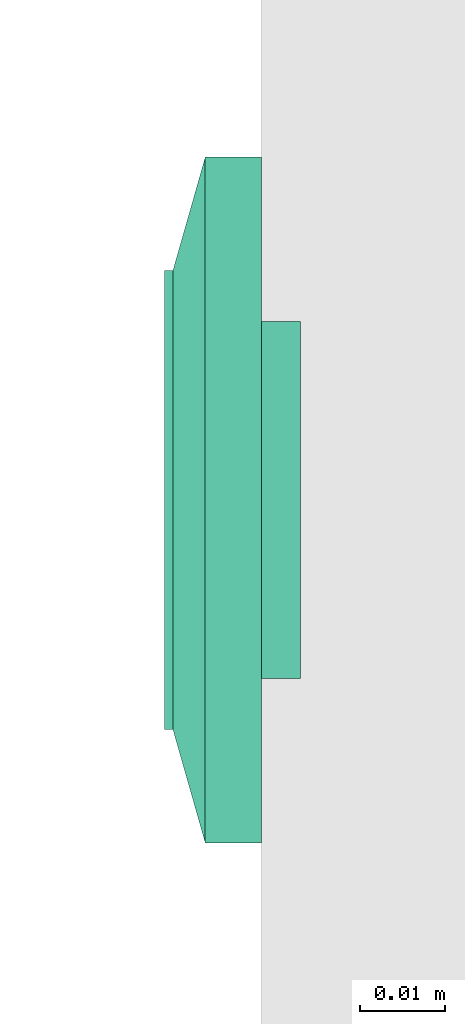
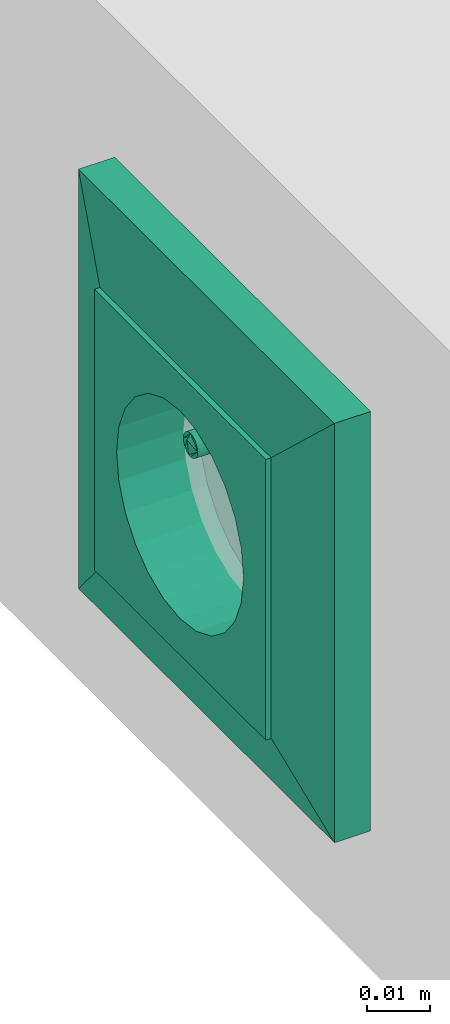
# One storey, part 112 of 153: 1 flow terminal.
"""IFC2X3 building model written with IfcOpenShell, lengths in metres."""

import ifcopenshell
import ifcopenshell.guid

model = None  # the IFC model being written
_history = None  # IfcOwnerHistory: only IFC2X3 demands one
_inside = {}  # id of a spatial element -> (the spatial element, [elements in it])
_under = {}  # id of a project, library or spatial element -> (it, [spatial elements below it])
_declared = {}  # id of a project -> (the project, [libraries it declares])
_typed = {}  # id of a type object -> (the type object, [elements of that type])
_made_of = {}  # id of a material, layer set ... -> (it, [elements and type objects made of it])


def new_model(schema):
    """Start an empty IFC model of exactly this schema.

    Asked for "IFC4X3", IfcOpenShell would pick the latest addendum, in which some entities
    have other attributes; the version numbers below select the first issue.
    IFC2X3 requires an IfcOwnerHistory on every rooted entity: one is made here for all.
    """
    global model, _history
    if schema == "IFC4X3":
        model = ifcopenshell.file(schema_version=(4, 3, 0, 0))
    else:
        model = ifcopenshell.file(schema=schema)
    _inside.clear()
    _under.clear()
    _declared.clear()
    _typed.clear()
    _made_of.clear()
    _history = None
    if model.schema == "IFC2X3":
        org = make("IfcOrganization", Name="unknown")
        user = make(
            "IfcPersonAndOrganization",
            ThePerson=make("IfcPerson", FamilyName="unknown"),
            TheOrganization=org,
        )
        app = make(
            "IfcApplication",
            ApplicationDeveloper=org,
            Version="unknown",
            ApplicationFullName="unknown",
            ApplicationIdentifier="unknown",
        )
        _history = make(
            "IfcOwnerHistory",
            OwningUser=user,
            OwningApplication=app,
            ChangeAction="ADDED",
            CreationDate=0,
        )
    return model


def make(cls, **values):
    """One entity of the class cls with the attributes given. An attribute that is None is left unset."""
    return model.create_entity(
        cls, **{name: value for name, value in values.items() if value is not None}
    )


def entity(cls, *values):
    """Any entity or typed value of the class cls, its attributes in the order of the schema. None: left unset."""
    e = model.create_entity(cls)
    for i, value in enumerate(values):
        if value is not None:
            e[i] = value
    return e


def rooted(cls, **values):
    """An entity with a GlobalId (a new one), such as an element, a storey or a relation."""
    return make(cls, GlobalId=ifcopenshell.guid.new(), OwnerHistory=_history, **values)


def si_unit(unit_type, name, prefix=None):
    """IfcSIUnit, for example si_unit("LENGTHUNIT", "METRE", prefix="MILLI")."""
    return make("IfcSIUnit", UnitType=unit_type, Prefix=prefix, Name=name)


def converted_unit(unit_type, name, factor, base, dimensions=None, offset=None):
    """IfcConversionBasedUnit, such as the inch: factor (a typed value) times the base unit."""
    return make(
        "IfcConversionBasedUnit"
        if offset is None
        else "IfcConversionBasedUnitWithOffset",
        ConversionOffset=offset,
        Dimensions=None
        if dimensions is None
        else entity("IfcDimensionalExponents", *dimensions),
        UnitType=unit_type,
        Name=name,
        ConversionFactor=make(
            "IfcMeasureWithUnit", ValueComponent=factor, UnitComponent=base
        ),
    )


def derived_unit(unit_type, elements):
    """IfcDerivedUnit: a product of units, each with its exponent."""
    return make(
        "IfcDerivedUnit",
        Elements=[
            make("IfcDerivedUnitElement", Unit=unit, Exponent=power)
            for unit, power in elements
        ],
        UnitType=unit_type,
    )


def assignment(units):
    """IfcUnitAssignment: the units of a project."""
    return None if units is None else make("IfcUnitAssignment", Units=units)


def point(xyz):
    """IfcCartesianPoint."""
    return None if xyz is None else make("IfcCartesianPoint", Coordinates=xyz)


def direction(xyz):
    """IfcDirection."""
    return None if xyz is None else make("IfcDirection", DirectionRatios=xyz)


def frame(location, z_axis=None, x_axis=None):
    """IfcAxis2Placement3D, a coordinate frame: its origin and axes. An axis left out is left unset."""
    return make(
        "IfcAxis2Placement3D",
        Location=point(location),
        Axis=direction(z_axis),
        RefDirection=direction(x_axis),
    )


def origin():
    """The frame at (0, 0, 0) with its axes left unset."""
    return frame((0.0, 0.0, 0.0))


def place(relative_to, where):
    """IfcLocalPlacement: puts the frame where relative to a parent placement (None: the world)."""
    return make(
        "IfcLocalPlacement", PlacementRelTo=relative_to, RelativePlacement=where
    )


def context(
    kind, dimensions, precision=None, world=None, true_north=None, identifier=None
):
    """IfcGeometricRepresentationContext, for example the 3D "Model" context."""
    return make(
        "IfcGeometricRepresentationContext",
        ContextIdentifier=identifier,
        ContextType=kind,
        CoordinateSpaceDimension=dimensions,
        Precision=precision,
        WorldCoordinateSystem=world,
        TrueNorth=true_north,
    )


def subcontext(parent, identifier, kind, view, scale=None):
    """IfcGeometricRepresentationSubContext, for example "Body" below "Model"."""
    return make(
        "IfcGeometricRepresentationSubContext",
        ContextIdentifier=identifier,
        ContextType=kind,
        ParentContext=parent,
        TargetScale=scale,
        TargetView=view,
    )


def project(units=None, contexts=None):
    """IfcProject with its units and contexts."""
    return rooted(
        "IfcProject",
        Name="project",
        RepresentationContexts=contexts,
        UnitsInContext=assignment(units),
    )


def spatial(cls, under=None, at=None, **own):
    """A site, building, storey or space (cls), placed at a placement, below another one or the project."""
    s = rooted(cls, ObjectPlacement=at, **own)
    if under is not None:
        _under.setdefault(under.id(), (under, []))[1].append(s)
    return s


def faces_of(points, faces, orient=None, outer=None):
    """IfcFace entities. A face is a list of loops; a loop is a list of indices into points, from 0.

    orient and outer hold one flag for each loop. By default every Orientation is true, the
    first loop of a face is its IfcFaceOuterBound and the others are IfcFaceBound.
    """
    made = []
    for i, loops in enumerate(faces):
        bounds = []
        for j, loop in enumerate(loops):
            is_outer = j == 0 if outer is None else outer[i][j]
            bounds.append(
                make(
                    "IfcFaceOuterBound" if is_outer else "IfcFaceBound",
                    Bound=make("IfcPolyLoop", Polygon=[points[k] for k in loop]),
                    Orientation=True if orient is None else orient[i][j],
                )
            )
        made.append(make("IfcFace", Bounds=bounds))
    return made


def face_set(faces, orient=None, outer=None):
    """The faces of one IfcConnectedFaceSet. surface_model builds it on its shared points."""
    return ("IfcConnectedFaceSet", faces, orient, outer)


def surface_model(cls, points, shells):
    """IfcFaceBasedSurfaceModel or IfcShellBasedSurfaceModel (cls): surfaces that need not close."""
    shared = [point(p) for p in points]
    made = [make(c, CfsFaces=faces_of(shared, fs, o, b)) for c, fs, o, b in shells]
    if cls == "IfcFaceBasedSurfaceModel":
        return make(cls, FbsmFaces=made)
    return make(cls, SbsmBoundary=made)


def shape(context_of_items, identifier, shape_type, items):
    """IfcShapeRepresentation: the items that make up one representation, for example the "Body"."""
    return make(
        "IfcShapeRepresentation",
        ContextOfItems=context_of_items,
        RepresentationIdentifier=identifier,
        RepresentationType=shape_type,
        Items=items,
    )


def source(mapping_origin, context_of_items, identifier, shape_type, items):
    """IfcRepresentationMap: a shape defined once, which mapped items show again and again."""
    return make(
        "IfcRepresentationMap",
        MappingOrigin=mapping_origin,
        MappedRepresentation=shape(context_of_items, identifier, shape_type, items),
    )


def transform(
    local_origin,
    x_axis=None,
    y_axis=None,
    z_axis=None,
    scale=None,
    scale2=None,
    scale3=None,
    uniform=True,
):
    """IfcCartesianTransformationOperator3D, or its non-uniform kind. x_axis, y_axis, z_axis: its Axis1, 2, 3."""
    if uniform:
        return make(
            "IfcCartesianTransformationOperator3D",
            Axis1=direction(x_axis),
            Axis2=direction(y_axis),
            LocalOrigin=point(local_origin),
            Scale=scale,
            Axis3=direction(z_axis),
        )
    return make(
        "IfcCartesianTransformationOperator3DnonUniform",
        Axis1=direction(x_axis),
        Axis2=direction(y_axis),
        LocalOrigin=point(local_origin),
        Scale=scale,
        Axis3=direction(z_axis),
        Scale2=scale2,
        Scale3=scale3,
    )


def mapped(mapping_source, mapping_target):
    """IfcMappedItem: shows the shape of a source again, moved by a transform."""
    return make(
        "IfcMappedItem", MappingSource=mapping_source, MappingTarget=mapping_target
    )


def made_of(thing, what):
    """Note that an element or type object is made of a material, layer set ...; save() writes the relation."""
    if what is not None:
        _made_of.setdefault(what.id(), (what, []))[1].append(thing)
    return thing


def type_object(cls, material=None, **own):
    """A type object (cls), such as IfcWallType, which elements share."""
    return made_of(rooted(cls, **own), material)


def type_shapes(of_type, sources):
    """Give a type object the sources (RepresentationMaps) that its elements show as mapped items."""
    of_type.RepresentationMaps = sources


def element(
    cls,
    number,
    at=None,
    inside=None,
    cuts=None,
    type_object=None,
    material=None,
    context=None,
    identifier="Body",
    shape_type=None,
    held_by="IfcProductDefinitionShape",
    body=None,
    shapes=None,
    **own,
):
    """One element of the class cls, such as IfcWall. Its Tag is "e" and its number.

    at: its placement. inside: the storey or other place that contains it. cuts: it is an
    opening in that element (IfcRelVoidsElement). A single representation is given by context,
    identifier, shape_type and body (its items); several are given by shapes. held_by: the class
    of the entity that holds the representations. save() writes the other relations.
    """
    e = rooted(cls, Tag="e%d" % number, ObjectPlacement=at, **own)
    if body is not None:
        shapes = [shape(context, identifier, shape_type, body)]
    if shapes is not None:
        e.Representation = make(held_by, Representations=shapes)
    if inside is not None:
        _inside.setdefault(inside.id(), (inside, []))[1].append(e)
    if cuts is not None:
        rooted(
            "IfcRelVoidsElement", RelatingBuildingElement=cuts, RelatedOpeningElement=e
        )
    if type_object is not None:
        _typed.setdefault(type_object.id(), (type_object, []))[1].append(e)
    return made_of(e, material)


def aggregate(whole, parts):
    """IfcRelAggregates: a whole, such as a stair, and the parts it consists of."""
    return rooted("IfcRelAggregates", RelatingObject=whole, RelatedObjects=parts)


def save(model, path):
    """Write the relations noted so far, then the file.

    IfcRelAggregates (storeys below a building ...), IfcRelContainedInSpatialStructure (elements
    in a storey), IfcRelDefinesByType, IfcRelAssociatesMaterial and IfcRelDeclares: one each for
    every whole, place, type object, material and project.
    """
    for whole, parts in _under.values():
        aggregate(whole, parts)
    for where, things in _inside.values():
        rooted(
            "IfcRelContainedInSpatialStructure",
            RelatedElements=things,
            RelatingStructure=where,
        )
    for kind, things in _typed.values():
        rooted("IfcRelDefinesByType", RelatedObjects=things, RelatingType=kind)
    for what, things in _made_of.values():
        rooted("IfcRelAssociatesMaterial", RelatedObjects=things, RelatingMaterial=what)
    for by, libraries in _declared.values():
        rooted("IfcRelDeclares", RelatingContext=by, RelatedDefinitions=libraries)
    model.write(path)


model = new_model("IFC2X3")

# Units and contexts
model_context = context("Model", 3, precision=1e-05, world=origin(), true_north=direction((6.12303176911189e-17, 1.0)))
body_context = subcontext(model_context, "Body", "Model", "MODEL_VIEW")
ifc_project = project(units=[si_unit("LENGTHUNIT", "METRE"), si_unit("AREAUNIT", "SQUARE_METRE"), si_unit("VOLUMEUNIT", "CUBIC_METRE"), converted_unit("PLANEANGLEUNIT", "DEGREE", entity("IfcRatioMeasure", 0.0174532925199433), si_unit("PLANEANGLEUNIT", "RADIAN"), dimensions=[0, 0, 0, 0, 0, 0, 0]), si_unit("MASSUNIT", "GRAM", prefix="KILO"), derived_unit("MASSDENSITYUNIT", [(si_unit("MASSUNIT", "GRAM", prefix="KILO"), 1), (si_unit("LENGTHUNIT", "METRE"), -3)]), si_unit("TIMEUNIT", "SECOND"), si_unit("FREQUENCYUNIT", "HERTZ"), si_unit("THERMODYNAMICTEMPERATUREUNIT", "DEGREE_CELSIUS"), derived_unit("THERMALTRANSMITTANCEUNIT", [(si_unit("MASSUNIT", "GRAM", prefix="KILO"), 1), (si_unit("THERMODYNAMICTEMPERATUREUNIT", "KELVIN"), -1), (si_unit("TIMEUNIT", "SECOND"), -3)]), derived_unit("VOLUMETRICFLOWRATEUNIT", [(si_unit("LENGTHUNIT", "METRE"), 3), (si_unit("TIMEUNIT", "SECOND"), -1)]), si_unit("ELECTRICCURRENTUNIT", "AMPERE"), si_unit("ELECTRICVOLTAGEUNIT", "VOLT"), si_unit("POWERUNIT", "WATT"), si_unit("FORCEUNIT", "NEWTON"), si_unit("ILLUMINANCEUNIT", "LUX"), si_unit("LUMINOUSFLUXUNIT", "LUMEN"), si_unit("LUMINOUSINTENSITYUNIT", "CANDELA"), derived_unit("USERDEFINED", [(si_unit("MASSUNIT", "GRAM", prefix="KILO"), -1), (si_unit("LENGTHUNIT", "METRE"), -2), (si_unit("TIMEUNIT", "SECOND"), 3), (si_unit("LUMINOUSFLUXUNIT", "LUMEN"), 1)]), derived_unit("LINEARVELOCITYUNIT", [(si_unit("LENGTHUNIT", "METRE"), 1), (si_unit("TIMEUNIT", "SECOND"), -1)]), si_unit("PRESSUREUNIT", "PASCAL"), derived_unit("USERDEFINED", [(si_unit("LENGTHUNIT", "METRE"), -2), (si_unit("MASSUNIT", "GRAM", prefix="KILO"), 1), (si_unit("TIMEUNIT", "SECOND"), -2)])], contexts=[model_context])

# Site, building, storey
site_placement = place(None, origin())
site = spatial("IfcSite", under=ifc_project, at=site_placement, Name="Default", CompositionType="ELEMENT")
building_placement = place(site_placement, origin())
building = spatial("IfcBuilding", under=site, at=building_placement, CompositionType="ELEMENT")
storey_placement = place(building_placement, frame((0.0, 0.0, -4.62)))
storey = spatial("IfcBuildingStorey", under=building, at=storey_placement, Name="S02", CompositionType="ELEMENT", Elevation=-4.62)

# Flow terminal
light_fixture_type = type_object("IfcLightFixtureType", Name="IP20 ONDULEE", PredefinedType="NOTDEFINED")
shared_shape = source(origin(), body_context, "Body", "SurfaceModel", [
    surface_model("IfcFaceBasedSurfaceModel", [(-0.00225000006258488, 0.0127499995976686, 0.00949633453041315), (0.0, 0.0104999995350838, 0.00949633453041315), (0.0, 0.0115376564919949, 0.0101656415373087), (0.0, 0.0139623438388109, 0.0101656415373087), (0.0, 0.0144589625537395, 0.00984531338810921), (0.0, 0.0121178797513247, 0.0102778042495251), (0.0, 0.0133821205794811, 0.0102778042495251), (0.0, 0.0127499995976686, 0.010399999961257), (0.0, 0.0149999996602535, 0.00949633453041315), (0.00225000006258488, 0.0127499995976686, 0.00949633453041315), (0.0, 0.0110410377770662, 0.00984531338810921), (0.0, 0.0127499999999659, 0.00949633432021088), (0.00225000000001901, 0.0127499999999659, 0.00949633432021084), (0.00217333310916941, 0.0121676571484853, 0.00949633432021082), (0.00194855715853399, 0.0116249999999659, 0.00949633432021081), (0.00159099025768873, 0.0111590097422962, 0.00949633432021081), (0.001125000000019, 0.010801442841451, 0.00949633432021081), (0.00058234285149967, 0.0105766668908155, 0.00949633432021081), (0.0, 0.0104999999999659, 0.00949633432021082), (-0.000582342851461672, 0.0105766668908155, 0.00949633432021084), (-0.001124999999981, 0.010801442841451, 0.00949633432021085), (-0.00159099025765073, 0.0111590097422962, 0.00949633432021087), (-0.00194855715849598, 0.011624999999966, 0.00949633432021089), (-0.0021733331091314, 0.0121676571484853, 0.00949633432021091), (-0.00224999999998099, 0.012749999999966, 0.00949633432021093), (-0.00217333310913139, 0.0133323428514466, 0.00949633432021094), (-0.00194855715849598, 0.013874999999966, 0.00949633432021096), (-0.00159099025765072, 0.0143409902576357, 0.00949633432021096), (-0.00112499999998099, 0.0146985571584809, 0.00949633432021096), (-0.00058234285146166, 0.0149233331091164, 0.00949633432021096), (0.0, 0.0149999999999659, 0.00949633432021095), (0.000582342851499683, 0.0149233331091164, 0.00949633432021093), (0.00112500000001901, 0.0146985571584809, 0.00949633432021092), (0.00159099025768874, 0.0143409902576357, 0.00949633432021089), (0.001948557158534, 0.0138749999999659, 0.00949633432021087), (0.00217333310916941, 0.0133323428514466, 0.00949633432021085), (0.00225000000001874, 0.0127499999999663, -0.00360000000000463), (0.00217333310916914, 0.0121676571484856, -0.00360000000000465), (0.00194855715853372, 0.0116249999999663, -0.00360000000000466), (0.00159099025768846, 0.0111590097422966, -0.00360000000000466), (0.00112500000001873, 0.0108014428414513, -0.00360000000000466), (0.000582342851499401, 0.0105766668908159, -0.00360000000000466), (0.0, 0.0104999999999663, -0.00360000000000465), (-0.000582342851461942, 0.0105766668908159, -0.00360000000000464), (-0.00112499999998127, 0.0108014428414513, -0.00360000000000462), (-0.001590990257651, 0.0111590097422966, -0.0036000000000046), (-0.00194855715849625, 0.0116249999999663, -0.00360000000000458), (-0.00217333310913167, 0.0121676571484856, -0.00360000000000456), (-0.00224999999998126, 0.0127499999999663, -0.00360000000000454), (-0.00217333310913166, 0.013332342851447, -0.00360000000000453), (-0.00194855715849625, 0.0138749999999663, -0.00360000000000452), (-0.00159099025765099, 0.014340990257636, -0.00360000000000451), (-0.00112499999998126, 0.0146985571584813, -0.00360000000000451), (-0.000582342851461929, 0.0149233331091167, -0.00360000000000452), (0.0, 0.0149999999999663, -0.00360000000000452), (0.000582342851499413, 0.0149233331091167, -0.00360000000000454), (0.00112500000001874, 0.0146985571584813, -0.00360000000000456), (0.00159099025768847, 0.014340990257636, -0.00360000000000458), (0.00194855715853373, 0.0138749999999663, -0.0036000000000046), (0.00217333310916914, 0.013332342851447, -0.00360000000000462), (0.0270000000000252, 0.026999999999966, 0.0113999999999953), (-0.0269999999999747, 0.026999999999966, 0.0113999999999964), (-0.0269999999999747, -0.0270000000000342, 0.0113999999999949), (0.0270000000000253, -0.0270000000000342, 0.0113999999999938), (-0.0199999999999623, 0.0, 0.0113999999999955), (-0.0193185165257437, -0.00517638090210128, 0.0113999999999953), (-0.0173205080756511, -0.0100000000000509, 0.0113999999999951), (-0.0141421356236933, -0.0141421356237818, 0.011399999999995), (-0.00999999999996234, -0.0173205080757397, 0.0113999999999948), (-0.00517638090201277, -0.0193185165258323, 0.0113999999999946), (0.0, -0.0200000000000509, 0.0113999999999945), (0.00517638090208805, -0.0193185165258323, 0.0113999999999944), (0.0100000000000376, -0.0173205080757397, 0.0113999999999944), (0.0141421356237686, -0.0141421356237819, 0.0113999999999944), (0.0173205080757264, -0.010000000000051, 0.0113999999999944), (0.0193185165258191, -0.00517638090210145, 0.0113999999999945), (0.0200000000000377, 0.0, 0.0113999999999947), (0.0193185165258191, 0.00517638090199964, 0.0113999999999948), (0.0173205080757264, 0.0099999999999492, 0.011399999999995), (0.0141421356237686, 0.0141421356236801, 0.0113999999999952), (0.0100000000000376, 0.0173205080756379, 0.0113999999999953), (0.00517638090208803, 0.0193185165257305, 0.0113999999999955), (0.0, 0.0199999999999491, 0.0113999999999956), (-0.00517638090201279, 0.0193185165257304, 0.0113999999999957), (-0.00999999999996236, 0.0173205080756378, 0.0113999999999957), (-0.0141421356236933, 0.01414213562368, 0.0113999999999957), (-0.0173205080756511, 0.00999999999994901, 0.0113999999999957), (-0.0193185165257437, 0.00517638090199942, 0.0113999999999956), (0.0270000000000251, 0.0269999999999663, 0.00199999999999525), (0.0270000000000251, -0.0270000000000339, 0.00199999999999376), (-0.0269999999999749, -0.0270000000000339, 0.00199999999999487), (-0.0269999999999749, 0.0269999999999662, 0.00199999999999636), (0.0210000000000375, 0.0, 0.00199999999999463), (0.0202844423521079, -0.00543519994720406, 0.00199999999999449), (0.0181865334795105, -0.0105000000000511, 0.0019999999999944), (0.0148492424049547, -0.0148492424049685, 0.00199999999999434), (0.0105000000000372, -0.0181865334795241, 0.00199999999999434), (0.0054351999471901, -0.0202844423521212, 0.00199999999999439), (0.0, -0.0210000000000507, 0.00199999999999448), (-0.00543519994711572, -0.020284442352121, 0.00199999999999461), (-0.0104999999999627, -0.0181865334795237, 0.00199999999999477), (-0.0148492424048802, -0.014849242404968, 0.00199999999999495), (-0.0181865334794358, -0.0105000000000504, 0.00199999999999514), (-0.020284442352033, -0.00543519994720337, 0.00199999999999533), (-0.0209999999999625, 0.0, 0.00199999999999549), (-0.0202844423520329, 0.0054351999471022, 0.00199999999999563), (-0.0181865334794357, 0.0104999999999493, 0.00199999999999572), (-0.01484924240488, 0.0148492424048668, 0.00199999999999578), (-0.0104999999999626, 0.0181865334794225, 0.00199999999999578), (-0.00543519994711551, 0.0202844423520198, 0.00199999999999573), (0.0, 0.0209999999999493, 0.00199999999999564), (0.00543519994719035, 0.0202844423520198, 0.00199999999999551), (0.0105000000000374, 0.0181865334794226, 0.00199999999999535), (0.0148492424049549, 0.0148492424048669, 0.00199999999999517), (0.0181865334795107, 0.0104999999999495, 0.00199999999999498), (0.0202844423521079, 0.00543519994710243, 0.00199999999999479), (0.0200000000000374, 0.0, -0.00360000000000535), (0.0193185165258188, -0.00517638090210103, -0.00360000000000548), (0.0173205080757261, -0.0100000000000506, -0.00360000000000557), (0.0141421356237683, -0.0141421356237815, -0.00360000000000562), (0.0100000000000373, -0.0173205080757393, -0.00360000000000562), (0.00517638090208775, -0.0193185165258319, -0.00360000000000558), (0.0, -0.0200000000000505, -0.00360000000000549), (-0.00517638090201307, -0.0193185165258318, -0.00360000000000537), (-0.00999999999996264, -0.0173205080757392, -0.00360000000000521), (-0.0141421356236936, -0.0141421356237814, -0.00360000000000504), (-0.0173205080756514, -0.0100000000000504, -0.00360000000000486), (-0.019318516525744, -0.00517638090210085, -0.00360000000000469), (-0.0199999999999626, 0.0, -0.00360000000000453), (-0.0193185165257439, 0.00517638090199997, -0.0036000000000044), (-0.0173205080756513, 0.00999999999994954, -0.00360000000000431), (-0.0141421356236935, 0.0141421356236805, -0.00360000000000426), (-0.00999999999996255, 0.0173205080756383, -0.00360000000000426), (-0.00517638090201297, 0.0193185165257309, -0.0036000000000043), (0.0, 0.0199999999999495, -0.00360000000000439), (0.00517638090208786, 0.0193185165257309, -0.00360000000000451), (0.0100000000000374, 0.0173205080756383, -0.00360000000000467), (0.0141421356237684, 0.0141421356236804, -0.00360000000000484), (0.0173205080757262, 0.0099999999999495, -0.00360000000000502), (0.0193185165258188, 0.00517638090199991, -0.00360000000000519), (-0.0123499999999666, 0.0, -0.00360000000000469), (-0.0122562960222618, -0.000711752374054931, -0.00360000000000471), (-0.0119815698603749, -0.00137500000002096, -0.00360000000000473), (-0.0115445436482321, -0.00194454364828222, -0.00360000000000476), (-0.0109749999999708, -0.00238156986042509, -0.00360000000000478), (-0.0103117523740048, -0.00265629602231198, -0.0036000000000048), (-0.00959999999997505, -0.00275000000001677, -0.00360000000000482), (-0.0088882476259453, -0.00265629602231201, -0.00360000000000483), (-0.00822499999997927, -0.00238156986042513, -0.00360000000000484), (-0.00765545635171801, -0.00194454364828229, -0.00360000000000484), (-0.00721843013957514, -0.00137500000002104, -0.00360000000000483), (-0.00694370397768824, -0.000711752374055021, -0.00360000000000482), (-0.00684999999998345, 0.0, -0.0036000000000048), (-0.00694370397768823, 0.000711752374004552, -0.00360000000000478), (-0.00721843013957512, 0.00137499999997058, -0.00360000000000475), (-0.00765545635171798, 0.00194454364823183, -0.00360000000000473), (-0.00822499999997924, 0.00238156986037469, -0.0036000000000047), (-0.00888824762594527, 0.00265629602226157, -0.00360000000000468), (-0.00959999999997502, 0.00274999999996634, -0.00360000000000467), (-0.0103117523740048, 0.00265629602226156, -0.00360000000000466), (-0.0109749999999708, 0.00238156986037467, -0.00360000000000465), (-0.011544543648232, 0.00194454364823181, -0.00360000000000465), (-0.0119815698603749, 0.00137499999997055, -0.00360000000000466), (-0.0122562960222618, 0.000711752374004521, -0.00360000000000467), (0.00685000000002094, 0.0, -0.00360000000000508), (0.0069437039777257, -0.00071175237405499, -0.0036000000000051), (0.00721843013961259, -0.00137500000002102, -0.00360000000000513), (0.00765545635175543, -0.00194454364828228, -0.00360000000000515), (0.00822500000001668, -0.00238156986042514, -0.00360000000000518), (0.00888824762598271, -0.00265629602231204, -0.0036000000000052), (0.00960000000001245, -0.00275000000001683, -0.00360000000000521), (0.0103117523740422, -0.00265629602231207, -0.00360000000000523), (0.0109750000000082, -0.00238156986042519, -0.00360000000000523), (0.0115445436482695, -0.00194454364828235, -0.00360000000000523), (0.0119815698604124, -0.0013750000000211, -0.00360000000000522), (0.0122562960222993, -0.00071175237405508, -0.00360000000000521), (0.012350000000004, 0.0, -0.00360000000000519), (0.0122562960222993, 0.000711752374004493, -0.00360000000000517), (0.0119815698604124, 0.00137499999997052, -0.00360000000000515), (0.0115445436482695, 0.00194454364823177, -0.00360000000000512), (0.0109750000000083, 0.00238156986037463, -0.0036000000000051), (0.0103117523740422, 0.00265629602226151, -0.00360000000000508), (0.00960000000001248, 0.00274999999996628, -0.00360000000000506), (0.00888824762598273, 0.0026562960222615, -0.00360000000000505), (0.0082250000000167, 0.00238156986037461, -0.00360000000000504), (0.00765545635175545, 0.00194454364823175, -0.00360000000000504), (0.0072184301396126, 0.00137499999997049, -0.00360000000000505), (0.00694370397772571, 0.000711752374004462, -0.00360000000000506), (0.0210000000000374, 0.0, -0.00460000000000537), (0.0202844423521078, -0.00543519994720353, -0.00460000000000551), (0.0181865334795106, -0.0105000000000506, -0.0046000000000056), (0.0148492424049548, -0.0148492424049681, -0.00460000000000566), (0.0105000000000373, -0.0181865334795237, -0.00460000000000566), (0.00543519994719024, -0.0202844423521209, -0.00460000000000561), (0.0, -0.0210000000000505, -0.00460000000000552), (-0.00543519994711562, -0.0202844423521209, -0.00460000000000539), (-0.0104999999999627, -0.0181865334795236, -0.00460000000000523), (-0.0148492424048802, -0.0148492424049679, -0.00460000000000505), (-0.0181865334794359, -0.0105000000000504, -0.00460000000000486), (-0.0202844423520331, -0.00543519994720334, -0.00460000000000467), (-0.0209999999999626, 0.0, -0.00460000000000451), (-0.020284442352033, 0.00543519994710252, -0.00460000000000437), (-0.0181865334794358, 0.0104999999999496, -0.00460000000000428), (-0.0148492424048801, 0.0148492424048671, -0.00460000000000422), (-0.0104999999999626, 0.0181865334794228, -0.00460000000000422), (-0.00543519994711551, 0.02028444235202, -0.00460000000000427), (0.0, 0.0209999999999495, -0.00460000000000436), (0.00543519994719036, 0.02028444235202, -0.00460000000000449), (0.0105000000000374, 0.0181865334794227, -0.00460000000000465), (0.0148492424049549, 0.014849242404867, -0.00460000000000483), (0.0181865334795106, 0.0104999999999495, -0.00460000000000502), (0.0202844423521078, 0.00543519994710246, -0.00460000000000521), (-0.00684999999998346, 0.0, -0.0046000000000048), (-0.00694370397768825, 0.000711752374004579, -0.00460000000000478), (-0.00721843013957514, 0.00137499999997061, -0.00460000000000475), (-0.007655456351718, 0.00194454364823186, -0.00460000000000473), (-0.00822499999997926, 0.00238156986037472, -0.0046000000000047), (-0.00888824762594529, 0.0026562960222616, -0.00460000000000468), (-0.00959999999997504, 0.00274999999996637, -0.00460000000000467), (-0.0103117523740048, 0.00265629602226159, -0.00460000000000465), (-0.0109749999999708, 0.0023815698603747, -0.00460000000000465), (-0.0115445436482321, 0.00194454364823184, -0.00460000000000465), (-0.0119815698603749, 0.00137499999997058, -0.00460000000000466), (-0.0122562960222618, 0.000711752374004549, -0.00460000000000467), (-0.0123499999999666, 0.0, -0.00460000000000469), (-0.0122562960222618, -0.000711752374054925, -0.00460000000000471), (-0.0119815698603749, -0.00137500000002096, -0.00460000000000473), (-0.0115445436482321, -0.00194454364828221, -0.00460000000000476), (-0.0109749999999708, -0.00238156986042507, -0.00460000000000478), (-0.0103117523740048, -0.00265629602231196, -0.0046000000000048), (-0.00959999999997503, -0.00275000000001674, -0.00460000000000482), (-0.00888824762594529, -0.00265629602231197, -0.00460000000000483), (-0.00822499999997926, -0.00238156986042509, -0.00460000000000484), (-0.007655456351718, -0.00194454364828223, -0.00460000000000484), (-0.00721843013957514, -0.00137500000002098, -0.00460000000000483), (-0.00694370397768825, -0.000711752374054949, -0.00460000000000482), (0.012350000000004, 0.0, -0.00460000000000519), (0.0122562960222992, 0.000711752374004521, -0.00460000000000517), (0.0119815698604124, 0.00137499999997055, -0.00460000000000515), (0.0115445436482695, 0.0019445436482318, -0.00460000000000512), (0.0109750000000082, 0.00238156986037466, -0.0046000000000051), (0.0103117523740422, 0.00265629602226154, -0.00460000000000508), (0.00960000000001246, 0.00274999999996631, -0.00460000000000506), (0.00888824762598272, 0.00265629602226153, -0.00460000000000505), (0.00822500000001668, 0.00238156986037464, -0.00460000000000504), (0.00765545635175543, 0.00194454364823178, -0.00460000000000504), (0.00721843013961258, 0.00137499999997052, -0.00460000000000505), (0.00694370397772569, 0.00071175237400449, -0.00460000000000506), (0.00685000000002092, 0.0, -0.00460000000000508), (0.00694370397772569, -0.000711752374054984, -0.0046000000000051), (0.00721843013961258, -0.00137500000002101, -0.00460000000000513), (0.00765545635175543, -0.00194454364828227, -0.00460000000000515), (0.00822500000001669, -0.00238156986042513, -0.00460000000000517), (0.00888824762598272, -0.00265629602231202, -0.0046000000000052), (0.00960000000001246, -0.0027500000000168, -0.00460000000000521), (0.0103117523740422, -0.00265629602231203, -0.00460000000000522), (0.0109750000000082, -0.00238156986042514, -0.00460000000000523), (0.0115445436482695, -0.00194454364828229, -0.00460000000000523), (0.0119815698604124, -0.00137500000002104, -0.00460000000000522), (0.0122562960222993, -0.000711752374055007, -0.00460000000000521), (0.040350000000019, 0.0403499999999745, 0.00659999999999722), (0.040350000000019, -0.0403500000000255, 0.00659999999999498), (-0.0403499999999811, -0.0403500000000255, 0.00659999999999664), (-0.0403499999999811, 0.0403499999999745, 0.00659999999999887), (0.027000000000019, 0.0269999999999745, 0.00659999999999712), (-0.0269999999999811, 0.0269999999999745, 0.00659999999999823), (-0.026999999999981, -0.0270000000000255, 0.00659999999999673), (0.027000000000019, -0.0270000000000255, 0.00659999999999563), (0.027000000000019, 0.0269999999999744, 0.0103999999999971), (-0.026999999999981, 0.0269999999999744, 0.0103999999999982), (-0.026999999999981, -0.0270000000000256, 0.0103999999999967), (0.027000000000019, -0.0270000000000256, 0.0103999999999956), (0.040350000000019, 0.0403499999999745, 0.00659999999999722), (0.040350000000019, -0.0403500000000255, 0.00659999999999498), (-0.0403499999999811, -0.0403500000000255, 0.00659999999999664), (-0.0403499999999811, 0.0403499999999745, 0.00659999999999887), (-0.0269999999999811, 0.0269999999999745, 0.00659999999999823), (-0.0269999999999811, -0.0270000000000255, 0.00659999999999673), (0.0270000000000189, -0.0270000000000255, 0.00659999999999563), (0.0270000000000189, 0.0269999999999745, 0.00659999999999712), (0.0403500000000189, 0.0403499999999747, 0.0), (0.0403500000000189, -0.0403500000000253, 0.0), (-0.0403499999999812, -0.0403500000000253, 0.0), (-0.0403499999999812, 0.0403499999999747, 0.0), (0.0270000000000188, 0.0269999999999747, 0.0), (-0.0269999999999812, 0.0269999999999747, 0.0), (-0.0269999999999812, -0.0270000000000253, 0.0), (0.0270000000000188, -0.0270000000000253, 0.0)], [face_set([[[0, 1, 2]], [[3, 4, 2, 5]], [[6, 3, 5, 7]], [[2, 4, 0]], [[4, 8, 0]], [[3, 9, 8]], [[1, 9, 10]], [[2, 3, 6, 7]], [[3, 10, 9]], [[2, 10, 3]], [[11, 1, 0, 8]], [[11, 8, 9, 1]]]), face_set([[[12, 13, 14, 15, 16, 17, 18, 19, 20, 21, 22, 23, 24, 25, 26, 27, 28, 29, 30, 31, 32, 33, 34, 35]], [[36, 37, 38, 39, 40, 41, 42, 43, 44, 45, 46, 47, 48, 49, 50, 51, 52, 53, 54, 55, 56, 57, 58, 59]], [[48, 47, 23, 24]], [[47, 46, 22, 23]], [[45, 44, 20, 21]], [[46, 45, 21, 22]], [[44, 43, 19, 20]], [[18, 19, 43, 42]], [[42, 41, 17, 18]], [[41, 40, 16, 17]], [[39, 38, 14, 15]], [[40, 39, 15, 16]], [[38, 37, 13, 14]], [[12, 13, 37, 36]], [[36, 59, 35, 12]], [[59, 58, 34, 35]], [[57, 56, 32, 33]], [[58, 57, 33, 34]], [[56, 55, 31, 32]], [[30, 31, 55, 54]], [[54, 53, 29, 30]], [[53, 52, 28, 29]], [[51, 50, 26, 27]], [[52, 51, 27, 28]], [[50, 49, 25, 26]], [[24, 25, 49, 48]]]), face_set([[[60, 61, 62, 63], [64, 65, 66, 67, 68, 69, 70, 71, 72, 73, 74, 75, 76, 77, 78, 79, 80, 81, 82, 83, 84, 85, 86, 87]], [[88, 89, 90, 91], [92, 93, 94, 95, 96, 97, 98, 99, 100, 101, 102, 103, 104, 105, 106, 107, 108, 109, 110, 111, 112, 113, 114, 115]], [[61, 60, 88, 91]], [[62, 61, 91, 90]], [[63, 62, 90, 89]], [[60, 63, 89, 88]], [[116, 117, 118, 119, 120, 121, 122, 123, 124, 125, 126, 127, 128, 129, 130, 131, 132, 133, 134, 135, 136, 137, 138, 139], [140, 141, 142, 143, 144, 145, 146, 147, 148, 149, 150, 151, 152, 153, 154, 155, 156, 157, 158, 159, 160, 161, 162, 163], [164, 165, 166, 167, 168, 169, 170, 171, 172, 173, 174, 175, 176, 177, 178, 179, 180, 181, 182, 183, 184, 185, 186, 187]], [[64, 128, 127, 65]], [[65, 127, 126, 66]], [[67, 125, 124, 68]], [[66, 126, 125, 67]], [[68, 124, 123, 69]], [[122, 70, 69, 123]], [[70, 122, 121, 71]], [[71, 121, 120, 72]], [[73, 119, 118, 74]], [[72, 120, 119, 73]], [[74, 118, 117, 75]], [[116, 76, 75, 117]], [[76, 116, 139, 77]], [[77, 139, 138, 78]], [[79, 137, 136, 80]], [[78, 138, 137, 79]], [[80, 136, 135, 81]], [[134, 82, 81, 135]], [[82, 134, 133, 83]], [[83, 133, 132, 84]], [[84, 132, 131, 85]], [[85, 131, 130, 86]], [[130, 129, 87, 86]], [[64, 87, 129, 128]], [[188, 189, 190, 191, 192, 193, 194, 195, 196, 197, 198, 199, 200, 201, 202, 203, 204, 205, 206, 207, 208, 209, 210, 211], [212, 213, 214, 215, 216, 217, 218, 219, 220, 221, 222, 223, 224, 225, 226, 227, 228, 229, 230, 231, 232, 233, 234, 235], [236, 237, 238, 239, 240, 241, 242, 243, 244, 245, 246, 247, 248, 249, 250, 251, 252, 253, 254, 255, 256, 257, 258, 259]], [[200, 199, 103, 104]], [[199, 198, 102, 103]], [[197, 196, 100, 101]], [[198, 197, 101, 102]], [[196, 195, 99, 100]], [[98, 99, 195, 194]], [[194, 193, 97, 98]], [[193, 192, 96, 97]], [[191, 190, 94, 95]], [[192, 191, 95, 96]], [[190, 189, 93, 94]], [[92, 93, 189, 188]], [[188, 211, 115, 92]], [[211, 210, 114, 115]], [[209, 208, 112, 113]], [[210, 209, 113, 114]], [[208, 207, 111, 112]], [[110, 111, 207, 206]], [[206, 205, 109, 110]], [[205, 204, 108, 109]], [[203, 202, 106, 107]], [[204, 203, 107, 108]], [[202, 201, 105, 106]], [[104, 105, 201, 200]], [[141, 225, 226, 142]], [[140, 224, 225, 141]], [[144, 228, 229, 145]], [[143, 227, 228, 144]], [[142, 226, 227, 143]], [[230, 146, 145, 229]], [[149, 233, 232, 148]], [[148, 232, 231, 147]], [[152, 212, 235, 151]], [[151, 235, 234, 150]], [[150, 234, 233, 149]], [[146, 230, 231, 147]], [[154, 214, 213, 153]], [[153, 213, 212, 152]], [[157, 217, 216, 156]], [[156, 216, 215, 155]], [[155, 215, 214, 154]], [[218, 158, 157, 217]], [[160, 220, 221, 161]], [[159, 219, 220, 160]], [[163, 223, 224, 140]], [[162, 222, 223, 163]], [[161, 221, 222, 162]], [[158, 218, 219, 159]], [[166, 250, 249, 165]], [[165, 249, 248, 164]], [[169, 253, 252, 168]], [[168, 252, 251, 167]], [[167, 251, 250, 166]], [[254, 170, 169, 253]], [[172, 256, 257, 173]], [[171, 255, 256, 172]], [[175, 259, 236, 176]], [[174, 258, 259, 175]], [[173, 257, 258, 174]], [[170, 254, 255, 171]], [[177, 237, 238, 178]], [[176, 236, 237, 177]], [[180, 240, 241, 181]], [[179, 239, 240, 180]], [[178, 238, 239, 179]], [[242, 182, 181, 241]], [[185, 245, 244, 184]], [[184, 244, 243, 183]], [[164, 248, 247, 187]], [[187, 247, 246, 186]], [[186, 246, 245, 185]], [[182, 242, 243, 183]]]), face_set([[[260, 261, 262, 263], [264, 265, 266, 267]], [[260, 268, 269, 263]], [[263, 269, 270, 262]], [[262, 270, 271, 261]], [[261, 271, 268, 260]], [[264, 265, 269, 268]], [[265, 266, 270, 269]], [[266, 267, 271, 270]], [[268, 271, 267, 264]]]), face_set([[[272, 273, 274, 275], [276, 277, 278, 279]], [[280, 281, 282, 283], [284, 285, 286, 287]], [[275, 272, 280, 283]], [[274, 275, 283, 282]], [[273, 274, 282, 281]], [[272, 273, 281, 280]], [[284, 285, 276, 279]], [[285, 286, 277, 276]], [[286, 287, 278, 277]], [[279, 278, 287, 284]]])]),
])
type_shapes(light_fixture_type, [shared_shape])
flow_terminal_placement = place(building_placement, frame((53.3337436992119, -186.718282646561, -4.18699999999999), z_axis=(-1.0, 0.0, 0.0), x_axis=(0.0, -1.0, 0.0)))
element("IfcFlowTerminal", 1, at=flow_terminal_placement, inside=storey, type_object=light_fixture_type, Name="INT Prise de courant:IP20 ONDULEE", ObjectType="INT Prise de courant:IP20 ONDULEE", context=body_context, shape_type="MappedRepresentation", body=[
    mapped(shared_shape, transform((0.0, 0.0, 0.0), scale=1.0)),
])

save(model, "model.ifc")
